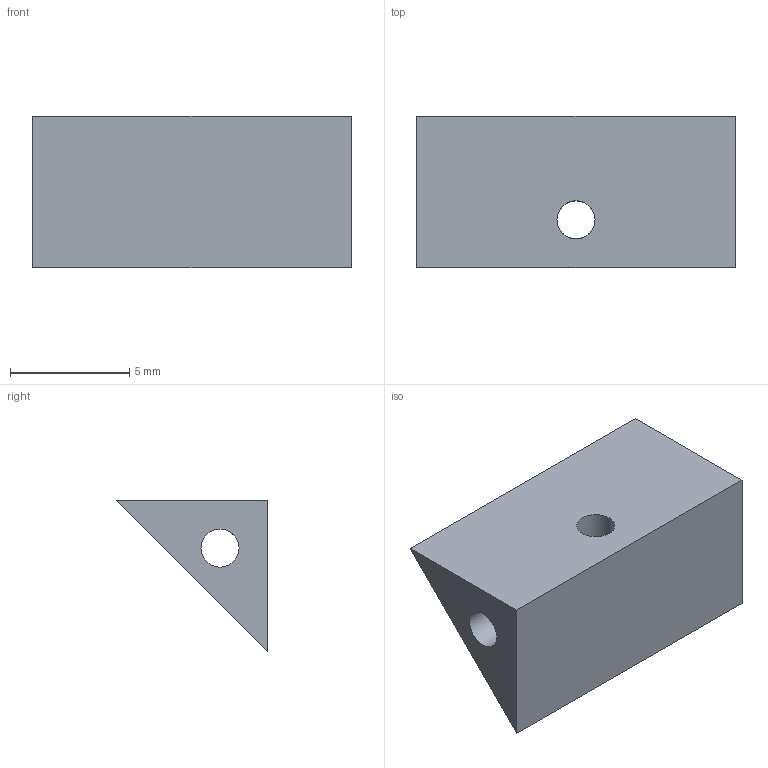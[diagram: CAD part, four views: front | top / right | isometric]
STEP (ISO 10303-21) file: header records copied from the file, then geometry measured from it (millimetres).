
FILE_DESCRIPTION(('FreeCAD Model'),'2;1');
FILE_NAME('Open CASCADE Shape Model','2025-04-03T18:29:57',(''),(''), 'Open CASCADE STEP processor 7.6','FreeCAD','Unknown');
FILE_SCHEMA(('CONFIG_CONTROL_DESIGN','SHAPE_APPEARANCE_LAYER_MIM'));
Length unit declared in the file: millimetre
Products named in the file (1): TriangleCCDAssemblySpacer
Bounding box: 13.37 x 6.35 x 6.35 mm (x, y, z)
Volume: 236.7 mm3; surface area: 400.2 mm2
Topology: 1 solids, 1 shells, 9 faces, 25 edges, 16 vertices
Faces by surface type: plane 5, cylinder 4
Full cylindrical faces by diameter (mm): 1.6 x4
Entity records: 388 total; most frequent: DIRECTION 57, CARTESIAN_POINT 51, ORIENTED_EDGE 50, EDGE_CURVE 25, AXIS2_PLACEMENT_3D 22, VERTEX_POINT 16, FACE_BOUND 13, EDGE_LOOP 13
